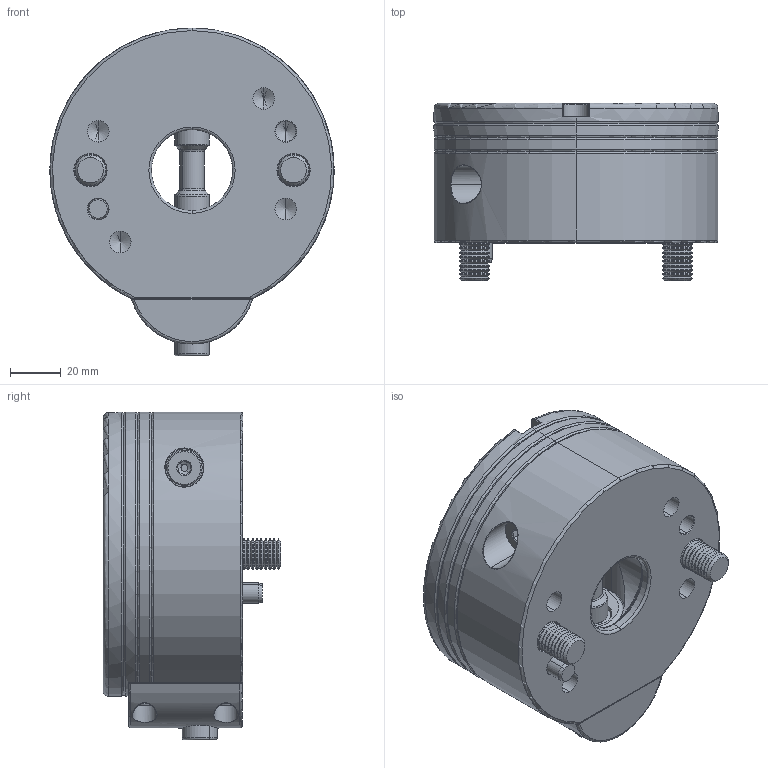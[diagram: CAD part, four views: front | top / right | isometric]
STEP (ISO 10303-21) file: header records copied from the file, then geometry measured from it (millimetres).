
FILE_DESCRIPTION (( 'STEP AP214' ), '1' );
FILE_NAME ('LSD杅耀.STEP', '2022-06-07T11:30:33', ( '' ), ( '' ), 'SwSTEP 2.0', 'SolidWorks 2018', '' );
FILE_SCHEMA (( 'AUTOMOTIVE_DESIGN' ));
Length unit declared in the file: millimetre
Products named in the file (1): LSD杅耀
Bounding box: 112 x 70 x 129.2 mm (x, y, z)
Volume: 491484.1 mm3; surface area: 71400.9 mm2
Topology: 6 solids, 14 shells, 830 faces, 2015 edges, 1219 vertices
Faces by surface type: cone 296, cylinder 223, plane 177, torus 94, bspline 40
Entity records: 40124 total; most frequent: CARTESIAN_POINT 11566, DIRECTION 4322, ORIENTED_EDGE 3982, EDGE_CURVE 1991, AXIS2_PLACEMENT_3D 1804, VERTEX_POINT 1219, CIRCLE 1013, EDGE_LOOP 890
